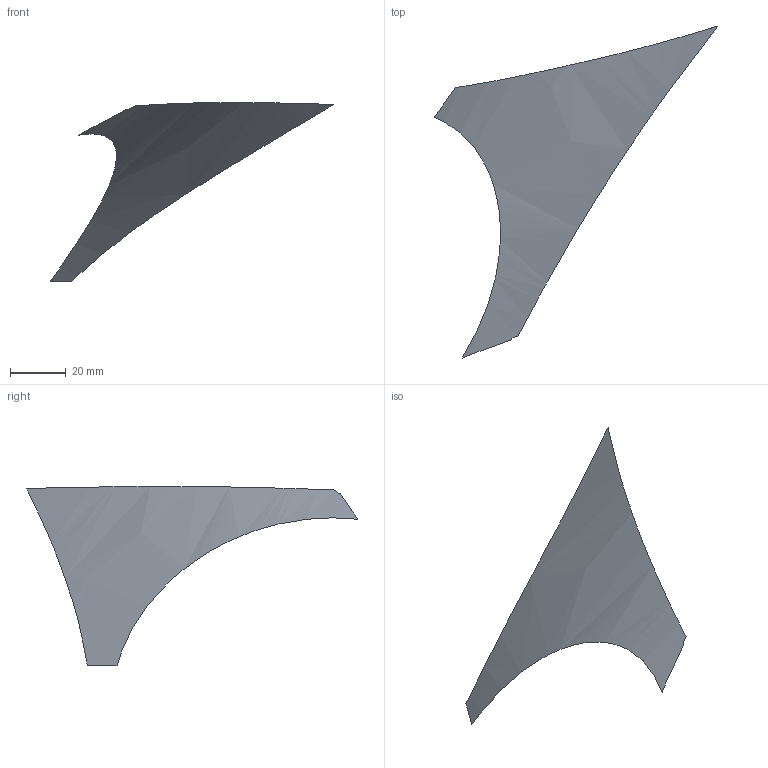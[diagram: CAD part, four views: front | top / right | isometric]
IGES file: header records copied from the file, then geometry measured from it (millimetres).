
Start section: START RECORD GO HERE
Global section: file name: s12.igs; native system: IBM CATIA IGES - CATIA SOLUTIONS V4RELEASE 1.9 REFRESH 01; preprocessor: CATIA SOLUTIONS V4RELEASE 1.9 REFRESH 01; author: cky; date: 990510.133752; units: millimetre
Bounding box: 101.61 x 118.97 x 64.16 mm (x, y, z)
Surface area: 5819.3 mm2 (no closed solid volume)
Topology: 0 solids, 0 shells, 1 faces, 47 edges, 47 vertices
Faces by surface type: bspline 1
